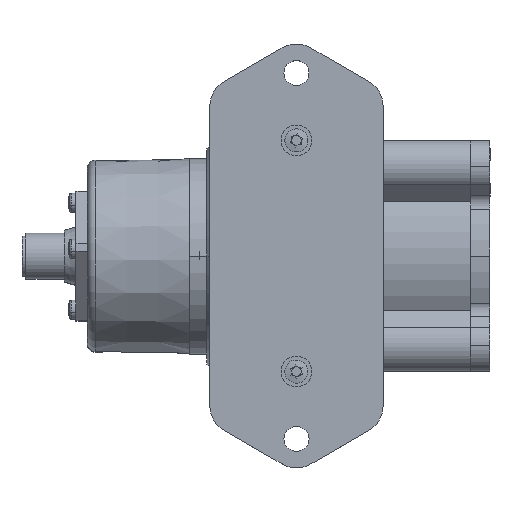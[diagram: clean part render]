
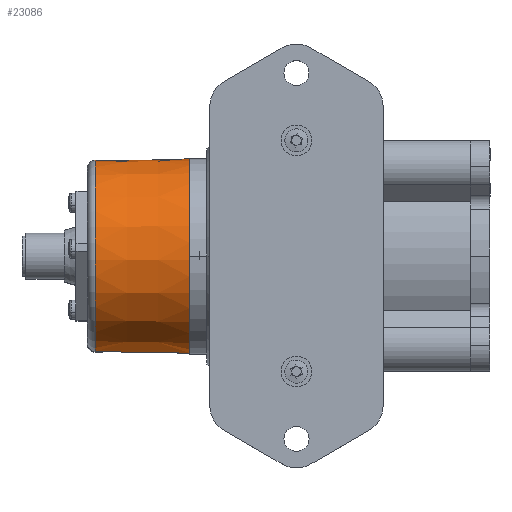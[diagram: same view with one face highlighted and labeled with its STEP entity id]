
A CAD part, top view. The second image highlights one B-rep face of the part: STEP entity #23086.
In plain terms, the highlighted conical face has half-angle 1 degrees and reference radius 25.4 mm.
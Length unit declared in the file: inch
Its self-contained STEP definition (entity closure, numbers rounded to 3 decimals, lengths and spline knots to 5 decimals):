
#133 = CARTESIAN_POINT ( 'NONE',  ( -2.54074, 0.97411, -0.13297 ) ) ;
#134 = DIRECTION ( 'NONE',  ( 0., -0.991, 0.135 ) ) ;
#135 = DIRECTION ( 'NONE',  ( 1., 0., 0. ) ) ;
#136 = CARTESIAN_POINT ( 'NONE',  ( -2.54074, 0., 0. ) ) ;
#137 = AXIS2_PLACEMENT_3D ( 'NONE', #136, #135, #134 ) ;
#138 = CIRCLE ( 'NONE', #137, 0.98314 ) ;
#2571 = DIRECTION ( 'NONE',  ( 0., -0.991, 0.135 ) ) ;
#2572 = DIRECTION ( 'NONE',  ( -1., 0., 0. ) ) ;
#2573 = CARTESIAN_POINT ( 'NONE',  ( -1.5748, 0., 0. ) ) ;
#2574 = AXIS2_PLACEMENT_3D ( 'NONE', #2573, #2572, #2571 ) ;
#2575 = CIRCLE ( 'NONE', #2574, 1. ) ;
#2580 = CARTESIAN_POINT ( 'NONE',  ( -1.5748, 0.99081, -0.13525 ) ) ;
#2701 = FACE_OUTER_BOUND ( 'NONE', #23096, .T. ) ;
#2702 = CARTESIAN_POINT ( 'NONE',  ( -1.5748, -0.99081, 0.13525 ) ) ;
#2734 = DIRECTION ( 'NONE',  ( 1., -0.017, 0.002 ) ) ;
#2735 = VECTOR ( 'NONE', #2734, 39.37008 ) ;
#2736 = CARTESIAN_POINT ( 'NONE',  ( -1.5748, -0.99081, 0.13525 ) ) ;
#2737 = LINE ( 'NONE', #2736, #2735 ) ;
#2739 = DIRECTION ( 'NONE',  ( 0., 0.991, -0.135 ) ) ;
#2740 = DIRECTION ( 'NONE',  ( 1., 0., 0. ) ) ;
#2741 = CARTESIAN_POINT ( 'NONE',  ( -1.5748, 0., 0. ) ) ;
#2742 = AXIS2_PLACEMENT_3D ( 'NONE', #2741, #2740, #2739 ) ;
#2744 = CONICAL_SURFACE ( 'NONE', #2742, 1., 0.017 ) ;
#3144 = DIRECTION ( 'NONE',  ( 1., 0.017, -0.002 ) ) ;
#3145 = VECTOR ( 'NONE', #3144, 39.37008 ) ;
#3146 = CARTESIAN_POINT ( 'NONE',  ( -1.5748, 0.99081, -0.13525 ) ) ;
#3147 = LINE ( 'NONE', #3146, #3145 ) ;
#9272 = VERTEX_POINT ( 'NONE', #43591 ) ;
#9331 = EDGE_CURVE ( 'NONE', #9332, #9272, #138, .T. ) ;
#9332 = VERTEX_POINT ( 'NONE', #133 ) ;
#23042 = VERTEX_POINT ( 'NONE', #2580 ) ;
#23043 = ORIENTED_EDGE ( 'NONE', *, *, #23145, .F. ) ;
#23049 = EDGE_CURVE ( 'NONE', #23083, #23042, #2575, .T. ) ;
#23082 = ORIENTED_EDGE ( 'NONE', *, *, #23049, .T. ) ;
#23083 = VERTEX_POINT ( 'NONE', #2702 ) ;
#23086 = ADVANCED_FACE ( 'NONE', ( #2701 ), #2744, .T. ) ;
#23092 = ORIENTED_EDGE ( 'NONE', *, *, #9331, .T. ) ;
#23093 = EDGE_CURVE ( 'NONE', #9272, #23083, #2737, .T. ) ;
#23094 = ORIENTED_EDGE ( 'NONE', *, *, #23093, .T. ) ;
#23096 = EDGE_LOOP ( 'NONE', ( #23092, #23094, #23082, #23043 ) ) ;
#23145 = EDGE_CURVE ( 'NONE', #9332, #23042, #3147, .T. ) ;
#43591 = CARTESIAN_POINT ( 'NONE',  ( -2.54074, -0.97411, 0.13297 ) ) ;
